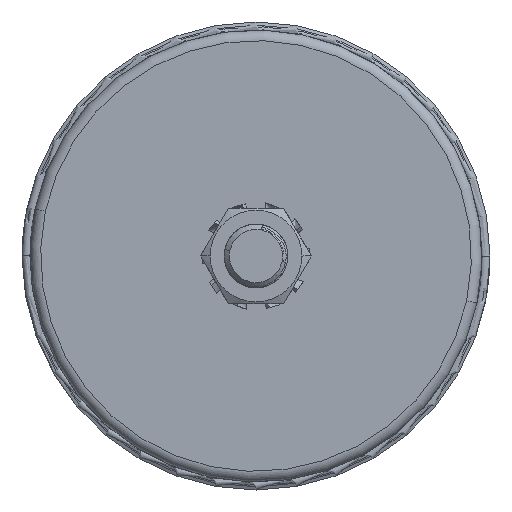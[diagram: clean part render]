
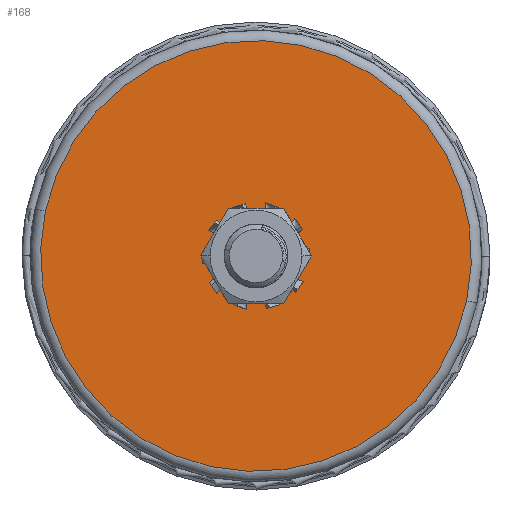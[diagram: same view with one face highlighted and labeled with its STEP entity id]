
A CAD part, front view. The second image highlights one B-rep face of the part: STEP entity #168.
In plain terms, the highlighted planar face has unit normal (0, -1, 0).
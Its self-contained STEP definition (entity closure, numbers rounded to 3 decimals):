
#168 = ADVANCED_FACE ( 'NONE', ( #5795, #207 ), #4504, .F. ) ;
#207 = FACE_OUTER_BOUND ( 'NONE', #661, .T. ) ;
#661 = EDGE_LOOP ( 'NONE', ( #7126, #5778 ) ) ;
#1508 = CARTESIAN_POINT ( 'NONE',  ( -6.848, -20., 1.453 ) ) ;
#1940 = AXIS2_PLACEMENT_3D ( 'NONE', #13184, #14544, #8617 ) ;
#2387 = CARTESIAN_POINT ( 'NONE',  ( 0., -20., 0. ) ) ;
#2563 = DIRECTION ( 'NONE',  ( 0., 1., 0. ) ) ;
#2973 = VERTEX_POINT ( 'NONE', #6045 ) ;
#3471 = CARTESIAN_POINT ( 'NONE',  ( 0., -20., 0. ) ) ;
#3516 = DIRECTION ( 'NONE',  ( 0., 1., 0. ) ) ;
#3857 = VERTEX_POINT ( 'NONE', #1508 ) ;
#4097 = CIRCLE ( 'NONE', #1940, 7. ) ;
#4280 = CARTESIAN_POINT ( 'NONE',  ( 39.618, -20., -8.407 ) ) ;
#4504 = PLANE ( 'NONE',  #11141 ) ;
#4574 = EDGE_CURVE ( 'NONE', #3857, #2973, #4097, .T. ) ;
#5778 = ORIENTED_EDGE ( 'NONE', *, *, #7104, .F. ) ;
#5795 = FACE_BOUND ( 'NONE', #13244, .T. ) ;
#5856 = DIRECTION ( 'NONE',  ( -0.978, 0., 0.208 ) ) ;
#6045 = CARTESIAN_POINT ( 'NONE',  ( 6.848, -20., -1.453 ) ) ;
#6424 = CARTESIAN_POINT ( 'NONE',  ( -39.618, -20., 8.407 ) ) ;
#6593 = CIRCLE ( 'NONE', #12417, 7. ) ;
#6707 = VERTEX_POINT ( 'NONE', #6424 ) ;
#6808 = AXIS2_PLACEMENT_3D ( 'NONE', #3471, #2563, #12830 ) ;
#6876 = CARTESIAN_POINT ( 'NONE',  ( 0., -20., 0. ) ) ;
#7081 = DIRECTION ( 'NONE',  ( 0., 1., 0. ) ) ;
#7104 = EDGE_CURVE ( 'NONE', #8624, #6707, #9979, .T. ) ;
#7126 = ORIENTED_EDGE ( 'NONE', *, *, #12402, .F. ) ;
#8008 = DIRECTION ( 'NONE',  ( 0., 1., 0. ) ) ;
#8617 = DIRECTION ( 'NONE',  ( -0.978, 0., 0.208 ) ) ;
#8624 = VERTEX_POINT ( 'NONE', #4280 ) ;
#9163 = DIRECTION ( 'NONE',  ( -0.978, 0., 0.208 ) ) ;
#9979 = CIRCLE ( 'NONE', #6808, 40.5 ) ;
#11141 = AXIS2_PLACEMENT_3D ( 'NONE', #2387, #3516, #9163 ) ;
#11464 = EDGE_CURVE ( 'NONE', #2973, #3857, #6593, .T. ) ;
#12402 = EDGE_CURVE ( 'NONE', #6707, #8624, #14862, .T. ) ;
#12417 = AXIS2_PLACEMENT_3D ( 'NONE', #12943, #7081, #14919 ) ;
#12662 = AXIS2_PLACEMENT_3D ( 'NONE', #6876, #8008, #5856 ) ;
#12830 = DIRECTION ( 'NONE',  ( -0.978, 0., 0.208 ) ) ;
#12943 = CARTESIAN_POINT ( 'NONE',  ( 0., -20., 0. ) ) ;
#13184 = CARTESIAN_POINT ( 'NONE',  ( 0., -20., 0. ) ) ;
#13244 = EDGE_LOOP ( 'NONE', ( #14403, #13835 ) ) ;
#13835 = ORIENTED_EDGE ( 'NONE', *, *, #11464, .T. ) ;
#14403 = ORIENTED_EDGE ( 'NONE', *, *, #4574, .T. ) ;
#14544 = DIRECTION ( 'NONE',  ( 0., 1., 0. ) ) ;
#14862 = CIRCLE ( 'NONE', #12662, 40.5 ) ;
#14919 = DIRECTION ( 'NONE',  ( -0.978, 0., 0.208 ) ) ;
